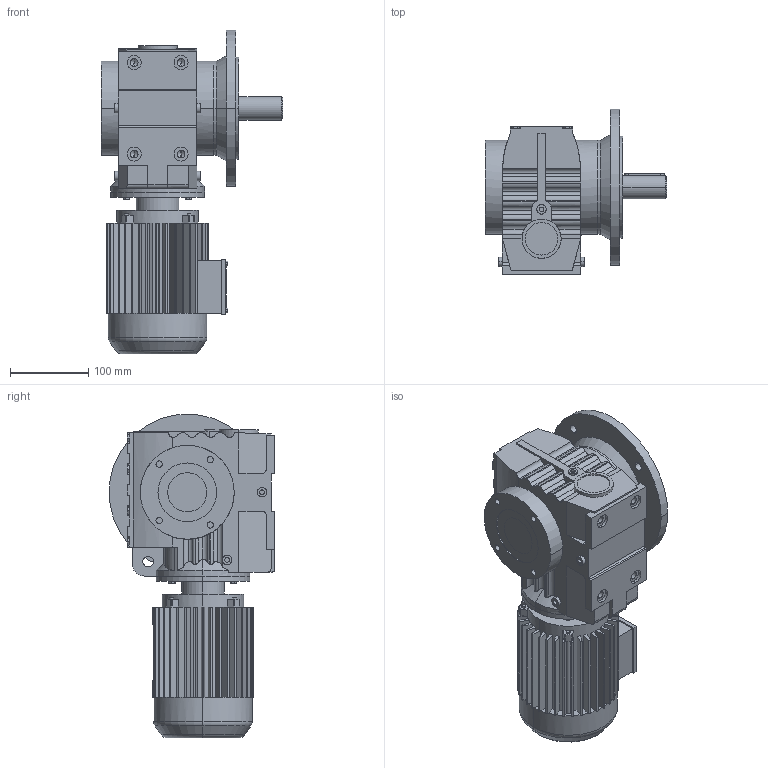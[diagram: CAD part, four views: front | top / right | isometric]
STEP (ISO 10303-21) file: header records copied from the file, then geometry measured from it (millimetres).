
FILE_DESCRIPTION(('Open CASCADE Model'),'2;1');
FILE_NAME('Open CASCADE Shape Model','2021-07-20T10:58:33',('Author'),( 'Open CASCADE'),'Open CASCADE STEP processor 6.3','Open CASCADE 6.3' ,'Unknown');
FILE_SCHEMA(('AUTOMOTIVE_DESIGN_CC2 { 1 2 10303 214 -1 1 5 4 }'));
Length unit declared in the file: millimetre
Products named in the file (5): 1_SF57-Y63S-A; SA47‵97_57.step; 萇儂_120_Y63S.step; す瑩妗陑粣S_57_SF.step; 楊擘S_57_200_SF.step
Assembly tree (4 placements, depth 2):
  1_SF57-Y63S-A
    SA47‵97_57.step
    萇儂_120_Y63S.step
    す瑩妗陑粣S_57_SF.step
    楊擘S_57_200_SF.step
Bounding box: 232 x 212 x 414 mm (x, y, z)
Volume: 6242894.5 mm3; surface area: 522966.5 mm2
Topology: 4 solids, 4 shells, 837 faces, 2186 edges, 1411 vertices
Faces by surface type: plane 526, cylinder 282, cone 25, torus 4
Entity records: 61952 total; most frequent: CARTESIAN_POINT 20988, DIRECTION 6937, ORIENTED_EDGE 4352, PCURVE 4352, DEFINITIONAL_REPRESENTATION 4352, LINE 3538, VECTOR 3538, EDGE_CURVE 2176
